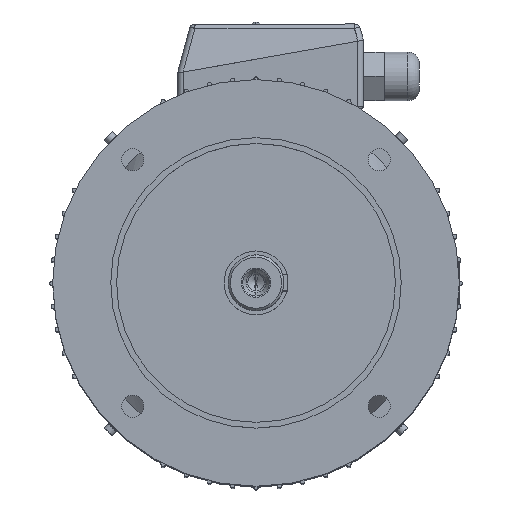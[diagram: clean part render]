
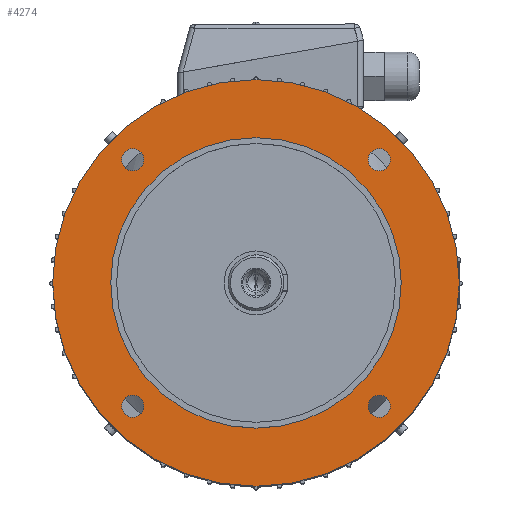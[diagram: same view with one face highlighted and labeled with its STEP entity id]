
A CAD part, top view. The second image highlights one B-rep face of the part: STEP entity #4274.
In plain terms, the highlighted planar face has unit normal (0, 0, 1).
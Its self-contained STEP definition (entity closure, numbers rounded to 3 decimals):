
#1864 = VERTEX_POINT ( 'NONE', #11228 ) ;
#2117 = EDGE_CURVE ( 'NONE', #1864, #3090, #11376, .T. ) ;
#2322 = CARTESIAN_POINT ( 'NONE',  ( 115.566, -106.066, 81. ) ) ;
#2491 = CIRCLE ( 'NONE', #2492, 9.5 ) ;
#2492 = AXIS2_PLACEMENT_3D ( 'NONE', #2496, #2497, #2498 ) ;
#2496 = CARTESIAN_POINT ( 'NONE',  ( 106.066, -106.066, 81. ) ) ;
#2497 = DIRECTION ( 'NONE',  ( 0., 0., 1. ) ) ;
#2498 = DIRECTION ( 'NONE',  ( 1., 0., 0. ) ) ;
#2529 = CIRCLE ( 'NONE', #2530, 125. ) ;
#2530 = AXIS2_PLACEMENT_3D ( 'NONE', #2531, #2532, #2533 ) ;
#2531 = CARTESIAN_POINT ( 'NONE',  ( 0., 0., 81. ) ) ;
#2532 = DIRECTION ( 'NONE',  ( 0., 0., 1. ) ) ;
#2533 = DIRECTION ( 'NONE',  ( 1., 0., 0. ) ) ;
#3090 = VERTEX_POINT ( 'NONE', #11765 ) ;
#3156 = CARTESIAN_POINT ( 'NONE',  ( -96.566, 106.066, 81. ) ) ;
#3343 = CARTESIAN_POINT ( 'NONE',  ( 96.566, -106.066, 81. ) ) ;
#3352 = CIRCLE ( 'NONE', #3353, 9.5 ) ;
#3353 = AXIS2_PLACEMENT_3D ( 'NONE', #3357, #3358, #3359 ) ;
#3357 = CARTESIAN_POINT ( 'NONE',  ( -106.066, 106.066, 81. ) ) ;
#3358 = DIRECTION ( 'NONE',  ( 0., 0., 1. ) ) ;
#3359 = DIRECTION ( 'NONE',  ( 1., 0., 0. ) ) ;
#3384 = ORIENTED_EDGE ( 'NONE', *, *, #8385, .F. ) ;
#3394 = CARTESIAN_POINT ( 'NONE',  ( -125., 0., 81. ) ) ;
#3639 = CARTESIAN_POINT ( 'NONE',  ( 125., 0., 81. ) ) ;
#3862 = CIRCLE ( 'NONE', #3863, 125. ) ;
#3863 = AXIS2_PLACEMENT_3D ( 'NONE', #3864, #3865, #3866 ) ;
#3864 = CARTESIAN_POINT ( 'NONE',  ( 0., 0., 81. ) ) ;
#3865 = DIRECTION ( 'NONE',  ( 0., 0., 1. ) ) ;
#3866 = DIRECTION ( 'NONE',  ( 1., 0., 0. ) ) ;
#4003 = EDGE_LOOP ( 'NONE', ( #9199, #8998 ) ) ;
#4063 = CARTESIAN_POINT ( 'NONE',  ( -115.566, 106.066, 81. ) ) ;
#4274 = ADVANCED_FACE ( 'NONE', ( #12388, #12389, #12390, #12391, #12392, #12393 ), #12394, .F. ) ;
#4322 = CIRCLE ( 'NONE', #4323, 9.5 ) ;
#4323 = AXIS2_PLACEMENT_3D ( 'NONE', #4324, #4325, #4326 ) ;
#4324 = CARTESIAN_POINT ( 'NONE',  ( -106.066, -106.066, 81. ) ) ;
#4325 = DIRECTION ( 'NONE',  ( 0., 0., 1. ) ) ;
#4326 = DIRECTION ( 'NONE',  ( 1., 0., 0. ) ) ;
#4421 = VERTEX_POINT ( 'NONE', #12469 ) ;
#5189 = CIRCLE ( 'NONE', #5190, 9.5 ) ;
#5190 = AXIS2_PLACEMENT_3D ( 'NONE', #5191, #5192, #5193 ) ;
#5191 = CARTESIAN_POINT ( 'NONE',  ( 106.066, 106.066, 81. ) ) ;
#5192 = DIRECTION ( 'NONE',  ( 0., 0., 1. ) ) ;
#5193 = DIRECTION ( 'NONE',  ( 1., 0., 0. ) ) ;
#5306 = CARTESIAN_POINT ( 'NONE',  ( -96.566, -106.066, 81. ) ) ;
#5413 = CIRCLE ( 'NONE', #5423, 9.5 ) ;
#5423 = AXIS2_PLACEMENT_3D ( 'NONE', #5424, #5425, #5426 ) ;
#5424 = CARTESIAN_POINT ( 'NONE',  ( -106.066, -106.066, 81. ) ) ;
#5425 = DIRECTION ( 'NONE',  ( 0., 0., 1. ) ) ;
#5426 = DIRECTION ( 'NONE',  ( 1., 0., 0. ) ) ;
#5724 = CIRCLE ( 'NONE', #5725, 9.5 ) ;
#5725 = AXIS2_PLACEMENT_3D ( 'NONE', #5726, #5730, #5731 ) ;
#5726 = CARTESIAN_POINT ( 'NONE',  ( -106.066, 106.066, 81. ) ) ;
#5730 = DIRECTION ( 'NONE',  ( 0., 0., 1. ) ) ;
#5731 = DIRECTION ( 'NONE',  ( 1., 0., 0. ) ) ;
#5736 = CARTESIAN_POINT ( 'NONE',  ( 115.566, 106.066, 81. ) ) ;
#5849 = CIRCLE ( 'NONE', #5850, 9.5 ) ;
#5850 = AXIS2_PLACEMENT_3D ( 'NONE', #5851, #5852, #5853 ) ;
#5851 = CARTESIAN_POINT ( 'NONE',  ( 106.066, 106.066, 81. ) ) ;
#5852 = DIRECTION ( 'NONE',  ( 0., 0., 1. ) ) ;
#5853 = DIRECTION ( 'NONE',  ( 1., 0., 0. ) ) ;
#6356 = CARTESIAN_POINT ( 'NONE',  ( 96.566, 106.066, 81. ) ) ;
#6665 = CIRCLE ( 'NONE', #6666, 9.5 ) ;
#6666 = AXIS2_PLACEMENT_3D ( 'NONE', #6677, #6678, #6679 ) ;
#6677 = CARTESIAN_POINT ( 'NONE',  ( 106.066, -106.066, 81. ) ) ;
#6678 = DIRECTION ( 'NONE',  ( 0., 0., 1. ) ) ;
#6679 = DIRECTION ( 'NONE',  ( 1., 0., 0. ) ) ;
#7296 = CIRCLE ( 'NONE', #7297, 175. ) ;
#7297 = AXIS2_PLACEMENT_3D ( 'NONE', #7298, #7299, #7300 ) ;
#7298 = CARTESIAN_POINT ( 'NONE',  ( 0., 0., 81. ) ) ;
#7299 = DIRECTION ( 'NONE',  ( 0., 0., 1. ) ) ;
#7300 = DIRECTION ( 'NONE',  ( 1., 0., 0. ) ) ;
#8138 = EDGE_LOOP ( 'NONE', ( #10292, #10165 ) ) ;
#8184 = EDGE_CURVE ( 'NONE', #8399, #8468, #2529, .T. ) ;
#8265 = ORIENTED_EDGE ( 'NONE', *, *, #8184, .F. ) ;
#8335 = VERTEX_POINT ( 'NONE', #3156 ) ;
#8385 = EDGE_CURVE ( 'NONE', #8619, #8335, #3352, .T. ) ;
#8386 = ORIENTED_EDGE ( 'NONE', *, *, #8518, .F. ) ;
#8399 = VERTEX_POINT ( 'NONE', #3394 ) ;
#8468 = VERTEX_POINT ( 'NONE', #3639 ) ;
#8518 = EDGE_CURVE ( 'NONE', #8468, #8399, #3862, .T. ) ;
#8524 = EDGE_LOOP ( 'NONE', ( #8386, #8265 ) ) ;
#8582 = ORIENTED_EDGE ( 'NONE', *, *, #9206, .F. ) ;
#8619 = VERTEX_POINT ( 'NONE', #4063 ) ;
#8716 = EDGE_CURVE ( 'NONE', #9161, #4421, #4322, .T. ) ;
#8809 = ORIENTED_EDGE ( 'NONE', *, *, #8716, .F. ) ;
#8939 = EDGE_LOOP ( 'NONE', ( #8809, #8582 ) ) ;
#8998 = ORIENTED_EDGE ( 'NONE', *, *, #9430, .F. ) ;
#9116 = EDGE_CURVE ( 'NONE', #9371, #9660, #5189, .T. ) ;
#9161 = VERTEX_POINT ( 'NONE', #5306 ) ;
#9199 = ORIENTED_EDGE ( 'NONE', *, *, #9116, .F. ) ;
#9206 = EDGE_CURVE ( 'NONE', #4421, #9161, #5413, .T. ) ;
#9366 = EDGE_CURVE ( 'NONE', #8335, #8619, #5724, .T. ) ;
#9371 = VERTEX_POINT ( 'NONE', #5736 ) ;
#9430 = EDGE_CURVE ( 'NONE', #9660, #9371, #5849, .T. ) ;
#9463 = ORIENTED_EDGE ( 'NONE', *, *, #9366, .F. ) ;
#9634 = EDGE_LOOP ( 'NONE', ( #9463, #3384 ) ) ;
#9660 = VERTEX_POINT ( 'NONE', #6356 ) ;
#9698 = ORIENTED_EDGE ( 'NONE', *, *, #11083, .F. ) ;
#9805 = EDGE_CURVE ( 'NONE', #10939, #12080, #6665, .T. ) ;
#9895 = ORIENTED_EDGE ( 'NONE', *, *, #9805, .F. ) ;
#10025 = EDGE_LOOP ( 'NONE', ( #9895, #9698 ) ) ;
#10077 = EDGE_CURVE ( 'NONE', #3090, #1864, #7296, .T. ) ;
#10165 = ORIENTED_EDGE ( 'NONE', *, *, #10077, .T. ) ;
#10292 = ORIENTED_EDGE ( 'NONE', *, *, #2117, .T. ) ;
#10939 = VERTEX_POINT ( 'NONE', #2322 ) ;
#11083 = EDGE_CURVE ( 'NONE', #12080, #10939, #2491, .T. ) ;
#11228 = CARTESIAN_POINT ( 'NONE',  ( 175., 0., 81. ) ) ;
#11376 = CIRCLE ( 'NONE', #11377, 175. ) ;
#11377 = AXIS2_PLACEMENT_3D ( 'NONE', #11378, #11379, #11380 ) ;
#11378 = CARTESIAN_POINT ( 'NONE',  ( 0., 0., 81. ) ) ;
#11379 = DIRECTION ( 'NONE',  ( 0., 0., 1. ) ) ;
#11380 = DIRECTION ( 'NONE',  ( 1., 0., 0. ) ) ;
#11765 = CARTESIAN_POINT ( 'NONE',  ( -175., 0., 81. ) ) ;
#12080 = VERTEX_POINT ( 'NONE', #3343 ) ;
#12388 = FACE_BOUND ( 'NONE', #4003, .T. ) ;
#12389 = FACE_BOUND ( 'NONE', #8939, .T. ) ;
#12390 = FACE_BOUND ( 'NONE', #8524, .T. ) ;
#12391 = FACE_OUTER_BOUND ( 'NONE', #8138, .T. ) ;
#12392 = FACE_BOUND ( 'NONE', #10025, .T. ) ;
#12393 = FACE_BOUND ( 'NONE', #9634, .T. ) ;
#12394 = PLANE ( 'NONE',  #12395 ) ;
#12395 = AXIS2_PLACEMENT_3D ( 'NONE', #12400, #12401, #12402 ) ;
#12400 = CARTESIAN_POINT ( 'NONE',  ( 0., 175., 81. ) ) ;
#12401 = DIRECTION ( 'NONE',  ( 0., 0., -1. ) ) ;
#12402 = DIRECTION ( 'NONE',  ( -1., 0., 0. ) ) ;
#12469 = CARTESIAN_POINT ( 'NONE',  ( -115.566, -106.066, 81. ) ) ;
